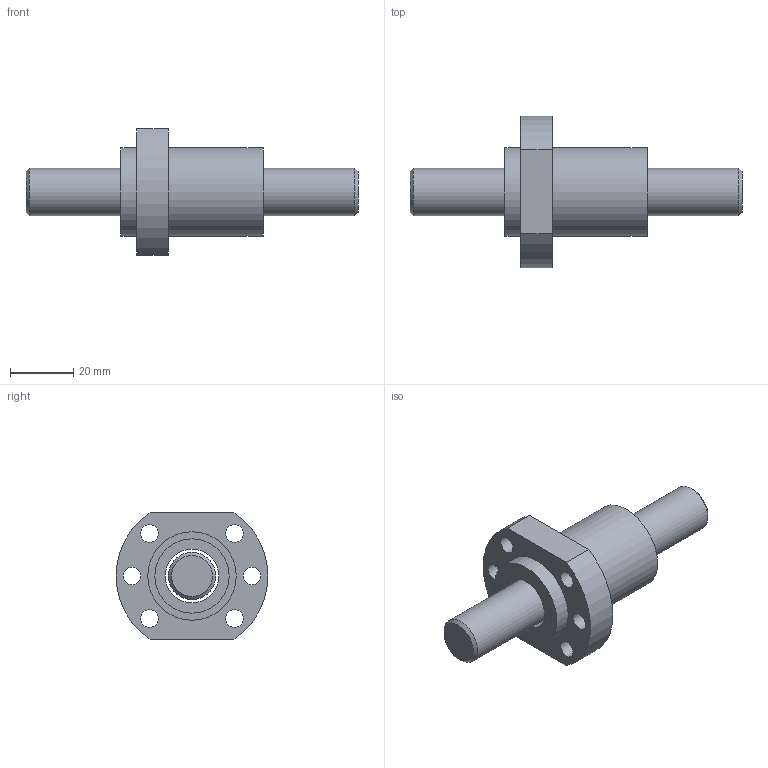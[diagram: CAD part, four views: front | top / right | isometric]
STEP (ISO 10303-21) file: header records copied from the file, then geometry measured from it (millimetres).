
FILE_DESCRIPTION(/* description */ (''),/* implementation_level */ '2;1');
FILE_NAME(/* name */ 'SFH1610-2.8.stp',/* time_stamp */ '2014-10-15T12:03:04+08:00',/* author */ (''),/* organization */ (''),/* preprocessor_version */ 'ST-DEVELOPER v11',/* originating_system */ 'SIEMENS UGS NX 6.0',/* authorisation */ '');
FILE_SCHEMA (('CONFIG_CONTROL_DESIGN'));
Length unit declared in the file: millimetre
Products named in the file (1): fannB1F9gmbi
Bounding box: 105 x 48 x 40 mm (x, y, z)
Volume: 45076.8 mm3; surface area: 19106.6 mm2
Topology: 4 solids, 4 shells, 50 faces, 90 edges, 61 vertices
Faces by surface type: cylinder 26, plane 22, cone 2
Full cylindrical faces by diameter (mm): 5.5 x6, 15 x1, 17 x3, 20 x4, 23.5 x4, 25 x4, 28 x2
Entity records: 1220 total; most frequent: DIRECTION 218, CARTESIAN_POINT 172, ORIENTED_EDGE 124, EDGE_LOOP 106, AXIS2_PLACEMENT_3D 105, FACE_BOUND 100, EDGE_CURVE 62, VERTEX_POINT 58
